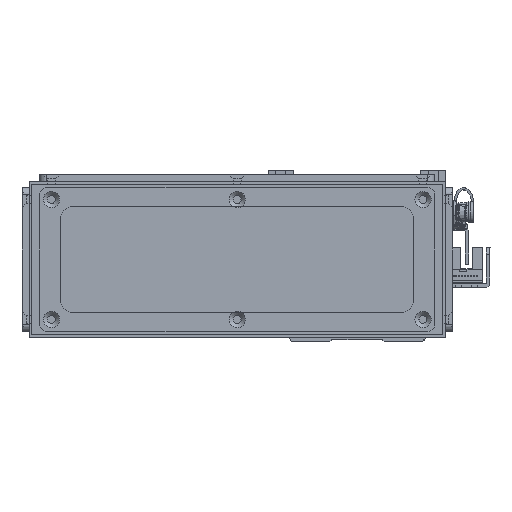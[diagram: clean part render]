
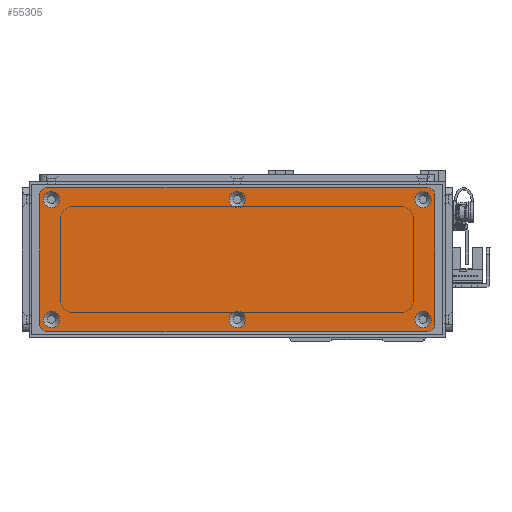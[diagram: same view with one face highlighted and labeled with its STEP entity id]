
A CAD part, left-side view. The second image highlights one B-rep face of the part: STEP entity #55305.
In plain terms, the highlighted planar face has unit normal (-1, 0, 0) as drawn and (0, 0, 1) by its records, which use the part's own axes.
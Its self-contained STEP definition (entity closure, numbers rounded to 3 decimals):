
#1191=FACE_BOUND('',#9010,.T.);
#1192=FACE_BOUND('',#9011,.T.);
#1193=FACE_BOUND('',#9012,.T.);
#1194=FACE_BOUND('',#9013,.T.);
#1195=FACE_BOUND('',#9014,.T.);
#1196=FACE_BOUND('',#9015,.T.);
#3162=PLANE('',#59512);
#5737=FACE_OUTER_BOUND('',#9009,.T.);
#9009=EDGE_LOOP('',(#49628,#49629,#49630,#49631,#49632,#49633,#49634,#49635));
#9010=EDGE_LOOP('',(#49636));
#9011=EDGE_LOOP('',(#49637));
#9012=EDGE_LOOP('',(#49638));
#9013=EDGE_LOOP('',(#49639));
#9014=EDGE_LOOP('',(#49640));
#9015=EDGE_LOOP('',(#49641));
#15218=LINE('',#89135,#21507);
#15221=LINE('',#89143,#21510);
#15224=LINE('',#89151,#21513);
#15227=LINE('',#89158,#21516);
#21507=VECTOR('',#72559,10.);
#21510=VECTOR('',#72568,10.);
#21513=VECTOR('',#72577,10.);
#21516=VECTOR('',#72586,10.);
#23142=CIRCLE('',#59466,3.45);
#23145=CIRCLE('',#59471,3.45);
#23148=CIRCLE('',#59476,3.45);
#23151=CIRCLE('',#59481,3.45);
#23154=CIRCLE('',#59486,3.45);
#23157=CIRCLE('',#59491,3.45);
#23164=CIRCLE('',#59501,3.);
#23165=CIRCLE('',#59504,3.);
#23166=CIRCLE('',#59507,3.);
#23167=CIRCLE('',#59510,3.);
#27951=VERTEX_POINT('',#89051);
#27954=VERTEX_POINT('',#89061);
#27957=VERTEX_POINT('',#89071);
#27960=VERTEX_POINT('',#89081);
#27963=VERTEX_POINT('',#89091);
#27966=VERTEX_POINT('',#89101);
#27977=VERTEX_POINT('',#89128);
#27978=VERTEX_POINT('',#89130);
#27979=VERTEX_POINT('',#89134);
#27980=VERTEX_POINT('',#89138);
#27981=VERTEX_POINT('',#89142);
#27982=VERTEX_POINT('',#89146);
#27983=VERTEX_POINT('',#89150);
#27984=VERTEX_POINT('',#89154);
#35294=EDGE_CURVE('',#27951,#27951,#23142,.T.);
#35299=EDGE_CURVE('',#27954,#27954,#23145,.T.);
#35304=EDGE_CURVE('',#27957,#27957,#23148,.T.);
#35309=EDGE_CURVE('',#27960,#27960,#23151,.T.);
#35314=EDGE_CURVE('',#27963,#27963,#23154,.T.);
#35319=EDGE_CURVE('',#27966,#27966,#23157,.T.);
#35333=EDGE_CURVE('',#27978,#27977,#23164,.T.);
#35335=EDGE_CURVE('',#27979,#27978,#15218,.T.);
#35337=EDGE_CURVE('',#27980,#27979,#23165,.T.);
#35339=EDGE_CURVE('',#27981,#27980,#15221,.T.);
#35341=EDGE_CURVE('',#27982,#27981,#23166,.T.);
#35343=EDGE_CURVE('',#27983,#27982,#15224,.T.);
#35345=EDGE_CURVE('',#27984,#27983,#23167,.T.);
#35347=EDGE_CURVE('',#27977,#27984,#15227,.T.);
#49628=ORIENTED_EDGE('',*,*,#35347,.T.);
#49629=ORIENTED_EDGE('',*,*,#35345,.T.);
#49630=ORIENTED_EDGE('',*,*,#35343,.T.);
#49631=ORIENTED_EDGE('',*,*,#35341,.T.);
#49632=ORIENTED_EDGE('',*,*,#35339,.T.);
#49633=ORIENTED_EDGE('',*,*,#35337,.T.);
#49634=ORIENTED_EDGE('',*,*,#35335,.T.);
#49635=ORIENTED_EDGE('',*,*,#35333,.T.);
#49636=ORIENTED_EDGE('',*,*,#35294,.T.);
#49637=ORIENTED_EDGE('',*,*,#35299,.T.);
#49638=ORIENTED_EDGE('',*,*,#35304,.T.);
#49639=ORIENTED_EDGE('',*,*,#35309,.T.);
#49640=ORIENTED_EDGE('',*,*,#35314,.T.);
#49641=ORIENTED_EDGE('',*,*,#35319,.T.);
#55305=ADVANCED_FACE('',(#5737,#1191,#1192,#1193,#1194,#1195,#1196),#3162,
 .T.);
#59466=AXIS2_PLACEMENT_3D('',#89052,#72467,#72468);
#59471=AXIS2_PLACEMENT_3D('',#89062,#72479,#72480);
#59476=AXIS2_PLACEMENT_3D('',#89072,#72491,#72492);
#59481=AXIS2_PLACEMENT_3D('',#89082,#72503,#72504);
#59486=AXIS2_PLACEMENT_3D('',#89092,#72515,#72516);
#59491=AXIS2_PLACEMENT_3D('',#89102,#72527,#72528);
#59501=AXIS2_PLACEMENT_3D('',#89131,#72554,#72555);
#59504=AXIS2_PLACEMENT_3D('',#89139,#72563,#72564);
#59507=AXIS2_PLACEMENT_3D('',#89147,#72572,#72573);
#59510=AXIS2_PLACEMENT_3D('',#89155,#72581,#72582);
#59512=AXIS2_PLACEMENT_3D('',#89159,#72587,#72588);
#72467=DIRECTION('center_axis',(0.,0.,-1.));
#72468=DIRECTION('ref_axis',(1.,0.,0.));
#72479=DIRECTION('center_axis',(0.,0.,-1.));
#72480=DIRECTION('ref_axis',(1.,0.,0.));
#72491=DIRECTION('center_axis',(0.,0.,-1.));
#72492=DIRECTION('ref_axis',(1.,0.,0.));
#72503=DIRECTION('center_axis',(0.,0.,-1.));
#72504=DIRECTION('ref_axis',(1.,0.,0.));
#72515=DIRECTION('center_axis',(0.,0.,-1.));
#72516=DIRECTION('ref_axis',(1.,0.,0.));
#72527=DIRECTION('center_axis',(0.,0.,-1.));
#72528=DIRECTION('ref_axis',(1.,0.,0.));
#72554=DIRECTION('center_axis',(0.,0.,1.));
#72555=DIRECTION('ref_axis',(-1.,0.,0.));
#72559=DIRECTION('',(0.,1.,0.));
#72563=DIRECTION('center_axis',(0.,0.,1.));
#72564=DIRECTION('ref_axis',(0.,1.,0.));
#72568=DIRECTION('',(1.,0.,0.));
#72572=DIRECTION('center_axis',(0.,0.,1.));
#72573=DIRECTION('ref_axis',(1.,0.,0.));
#72577=DIRECTION('',(0.,-1.,0.));
#72581=DIRECTION('center_axis',(0.,0.,1.));
#72582=DIRECTION('ref_axis',(0.,-1.,0.));
#72586=DIRECTION('',(-1.,0.,0.));
#72587=DIRECTION('center_axis',(0.,0.,1.));
#72588=DIRECTION('ref_axis',(1.,0.,0.));
#89051=CARTESIAN_POINT('',(-3.45,25.5,1.5));
#89052=CARTESIAN_POINT('Origin',(0.,25.5,1.5));
#89061=CARTESIAN_POINT('',(75.55,-25.5,1.5));
#89062=CARTESIAN_POINT('Origin',(79.,-25.5,1.5));
#89071=CARTESIAN_POINT('',(-82.45,25.5,1.5));
#89072=CARTESIAN_POINT('Origin',(-79.,25.5,1.5));
#89081=CARTESIAN_POINT('',(75.55,25.5,1.5));
#89082=CARTESIAN_POINT('Origin',(79.,25.5,1.5));
#89091=CARTESIAN_POINT('',(-82.45,-25.5,1.5));
#89092=CARTESIAN_POINT('Origin',(-79.,-25.5,1.5));
#89101=CARTESIAN_POINT('',(-3.45,-25.5,1.5));
#89102=CARTESIAN_POINT('Origin',(0.,-25.5,1.5));
#89128=CARTESIAN_POINT('',(81.,30.5,1.5));
#89130=CARTESIAN_POINT('',(84.,27.5,1.5));
#89131=CARTESIAN_POINT('Origin',(81.,27.5,1.5));
#89134=CARTESIAN_POINT('',(84.,-27.5,1.5));
#89135=CARTESIAN_POINT('',(84.,27.5,1.5));
#89138=CARTESIAN_POINT('',(81.,-30.5,1.5));
#89139=CARTESIAN_POINT('Origin',(81.,-27.5,1.5));
#89142=CARTESIAN_POINT('',(-81.,-30.5,1.5));
#89143=CARTESIAN_POINT('',(81.,-30.5,1.5));
#89146=CARTESIAN_POINT('',(-84.,-27.5,1.5));
#89147=CARTESIAN_POINT('Origin',(-81.,-27.5,1.5));
#89150=CARTESIAN_POINT('',(-84.,27.5,1.5));
#89151=CARTESIAN_POINT('',(-84.,-27.5,1.5));
#89154=CARTESIAN_POINT('',(-81.,30.5,1.5));
#89155=CARTESIAN_POINT('Origin',(-81.,27.5,1.5));
#89158=CARTESIAN_POINT('',(-81.,30.5,1.5));
#89159=CARTESIAN_POINT('Origin',(0.,0.,
1.5));
